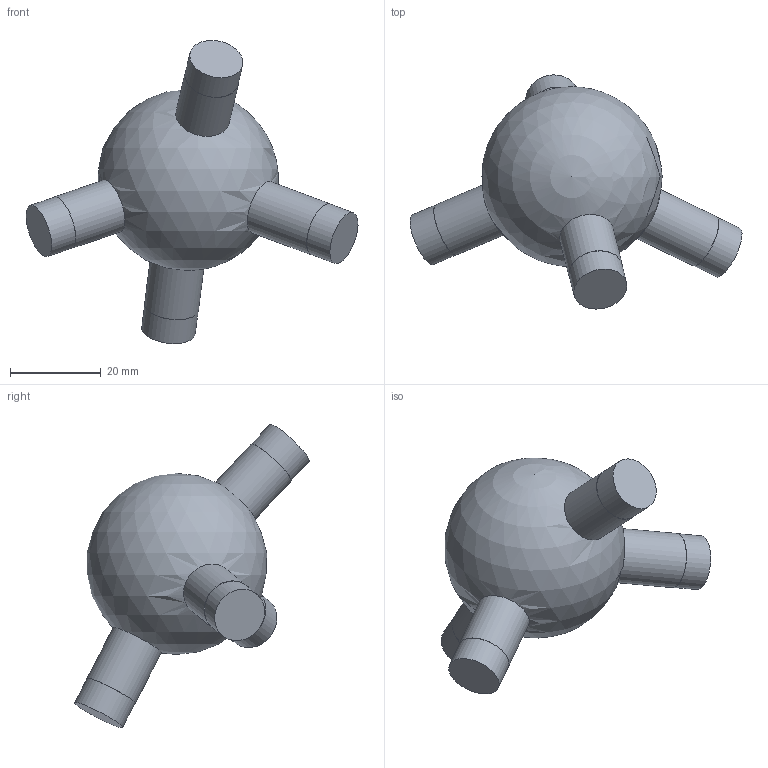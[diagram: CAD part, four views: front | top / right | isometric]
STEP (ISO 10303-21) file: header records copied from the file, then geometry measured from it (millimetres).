
FILE_DESCRIPTION(('Open CASCADE Model'),'2;1');
FILE_NAME('Open CASCADE Shape Model','2026-10-21T12:47:57',('Author'),( 'Open CASCADE'),'Open CASCADE STEP processor 7.9','Open CASCADE 7.9' ,'Unknown');
FILE_SCHEMA(('AUTOMOTIVE_DESIGN { 1 0 10303 214 1 1 1 1 }'));
Length unit declared in the file: millimetre
Products named in the file (1): Open CASCADE STEP translator 7.9 51
Bounding box: 73.31 x 51.8 x 66.95 mm (x, y, z)
Volume: 41889.7 mm3; surface area: 7886.5 mm2
Topology: 1 solids, 1 shells, 17 faces, 27 edges, 18 vertices
Faces by surface type: cylinder 8, plane 8, sphere 1
Full cylindrical faces by diameter (mm): 11.9 x4, 12 x4
Entity records: 969 total; most frequent: CARTESIAN_POINT 384, DIRECTION 120, ORIENTED_EDGE 48, PCURVE 48, DEFINITIONAL_REPRESENTATION 48, LINE 40, VECTOR 40, AXIS2_PLACEMENT_3D 34
